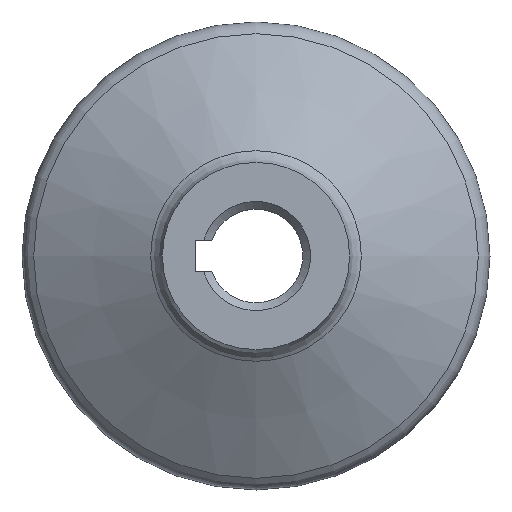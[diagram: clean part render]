
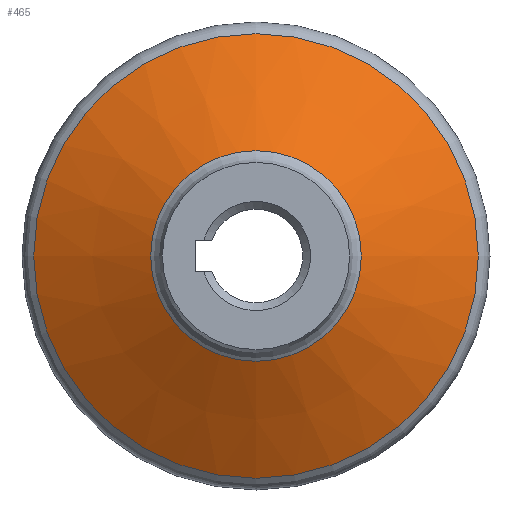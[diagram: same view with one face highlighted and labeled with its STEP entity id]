
A CAD part, left-side view. The second image highlights one B-rep face of the part: STEP entity #465.
In plain terms, the highlighted conical face has half-angle 60 degrees and reference radius 21 mm.
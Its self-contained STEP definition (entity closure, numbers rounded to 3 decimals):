
#69=FACE_OUTER_BOUND('',#100,.T.);
#100=EDGE_LOOP('',(#393,#394,#395,#396,#397,#398));
#137=LINE('',#831,#162);
#162=VECTOR('',#674,21.);
#187=CIRCLE('',#538,13.5);
#188=CIRCLE('',#539,13.5);
#189=CIRCLE('',#541,28.5);
#190=CIRCLE('',#542,28.5);
#233=VERTEX_POINT('',#822);
#234=VERTEX_POINT('',#824);
#235=VERTEX_POINT('',#828);
#236=VERTEX_POINT('',#829);
#291=EDGE_CURVE('',#234,#233,#187,.T.);
#292=EDGE_CURVE('',#233,#234,#188,.T.);
#293=EDGE_CURVE('',#235,#236,#189,.T.);
#294=EDGE_CURVE('',#235,#234,#137,.T.);
#295=EDGE_CURVE('',#236,#235,#190,.T.);
#393=ORIENTED_EDGE('',*,*,#293,.F.);
#394=ORIENTED_EDGE('',*,*,#294,.T.);
#395=ORIENTED_EDGE('',*,*,#291,.T.);
#396=ORIENTED_EDGE('',*,*,#292,.T.);
#397=ORIENTED_EDGE('',*,*,#294,.F.);
#398=ORIENTED_EDGE('',*,*,#295,.F.);
#444=CONICAL_SURFACE('',#540,21.,1.047);
#465=ADVANCED_FACE('',(#69),#444,.T.);
#538=AXIS2_PLACEMENT_3D('',#825,#666,#667);
#539=AXIS2_PLACEMENT_3D('',#826,#668,#669);
#540=AXIS2_PLACEMENT_3D('',#827,#670,#671);
#541=AXIS2_PLACEMENT_3D('',#830,#672,#673);
#542=AXIS2_PLACEMENT_3D('',#832,#675,#676);
#666=DIRECTION('center_axis',(1.,0.,0.));
#667=DIRECTION('ref_axis',(0.,0.,-1.));
#668=DIRECTION('center_axis',(1.,0.,0.));
#669=DIRECTION('ref_axis',(0.,0.,-1.));
#670=DIRECTION('center_axis',(1.,0.,0.));
#671=DIRECTION('ref_axis',(0.,1.,0.));
#672=DIRECTION('center_axis',(1.,0.,0.));
#673=DIRECTION('ref_axis',(0.,0.,-1.));
#674=DIRECTION('',(-0.5,0.866,0.));
#675=DIRECTION('center_axis',(1.,0.,0.));
#676=DIRECTION('ref_axis',(0.,0.,-1.));
#822=CARTESIAN_POINT('',(5.474,0.,13.5));
#824=CARTESIAN_POINT('',(5.474,-13.5,0.));
#825=CARTESIAN_POINT('Origin',(5.474,0.,0.));
#826=CARTESIAN_POINT('Origin',(5.474,0.,0.));
#827=CARTESIAN_POINT('Origin',(9.804,0.,0.));
#828=CARTESIAN_POINT('',(14.134,-28.5,0.));
#829=CARTESIAN_POINT('',(14.134,0.,28.5));
#830=CARTESIAN_POINT('Origin',(14.134,0.,0.));
#831=CARTESIAN_POINT('',(9.804,-21.,0.));
#832=CARTESIAN_POINT('Origin',(14.134,0.,0.));
